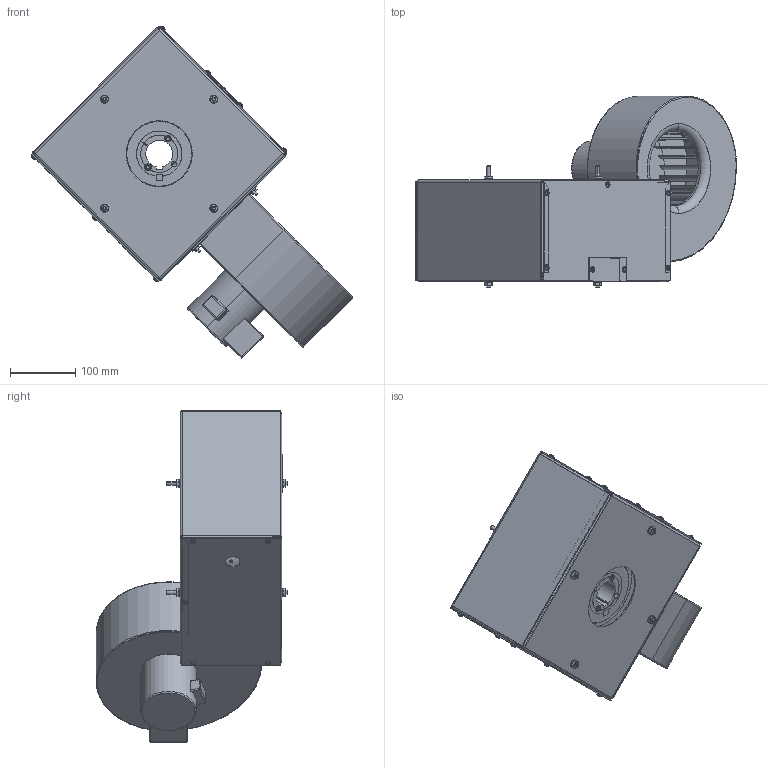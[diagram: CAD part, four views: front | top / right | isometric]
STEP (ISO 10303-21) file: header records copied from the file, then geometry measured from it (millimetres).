
FILE_DESCRIPTION (( 'STEP AP214' ), '1' );
FILE_NAME ('75MBA90S_stp.step', '2026-05-13T16:30:35', ( '' ), ( '' ), 'SwSTEP 2.0', 'SolidWorks 2025', '' );
FILE_SCHEMA (( 'AUTOMOTIVE_DESIGN' ));
Length unit declared in the file: inch
Products named in the file (1): 75MBA90S_stp
Bounding box: 493.68 x 294.87 x 510.45 mm (x, y, z)
Volume: 5082926.2 mm3; surface area: 1811540.5 mm2
Topology: 11 solids, 33 shells, 1936 faces, 4645 edges, 2782 vertices
Faces by surface type: plane 849, cylinder 625, cone 256, torus 154, sphere 36, bspline 16
Entity records: 58375 total; most frequent: CARTESIAN_POINT 12499, DIRECTION 10444, ORIENTED_EDGE 9146, EDGE_CURVE 4573, AXIS2_PLACEMENT_3D 4314, VERTEX_POINT 2770, CIRCLE 2393, EDGE_LOOP 2189
